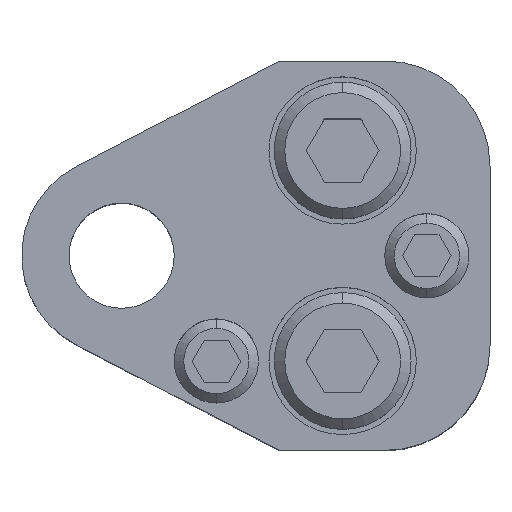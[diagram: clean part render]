
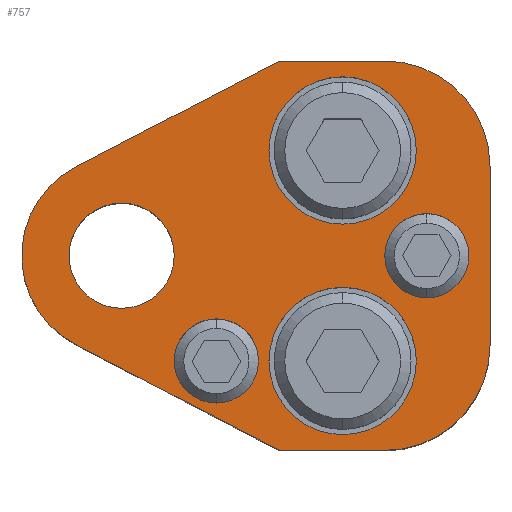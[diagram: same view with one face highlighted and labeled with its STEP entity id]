
A CAD part, top view. The second image highlights one B-rep face of the part: STEP entity #757.
In plain terms, the highlighted planar face has unit normal (0, 0, 1).
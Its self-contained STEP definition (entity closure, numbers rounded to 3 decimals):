
#428=LINE('',#3648,#598);
#433=LINE('',#3663,#603);
#437=LINE('',#3675,#607);
#442=LINE('',#3684,#612);
#447=LINE('',#3698,#617);
#598=VECTOR('',#2943,1.);
#603=VECTOR('',#2956,1.);
#607=VECTOR('',#2968,1.);
#612=VECTOR('',#2975,1.);
#617=VECTOR('',#2988,1.);
#757=ADVANCED_FACE('',(#863,#864,#865,#866,#867,#868),#834,.T.);
#834=PLANE('',#2455);
#863=FACE_BOUND('',#1003,.T.);
#864=FACE_BOUND('',#1004,.T.);
#865=FACE_BOUND('',#1005,.T.);
#866=FACE_BOUND('',#1006,.T.);
#867=FACE_BOUND('',#1007,.T.);
#868=FACE_BOUND('',#1008,.T.);
#1003=EDGE_LOOP('',(#1518,#1519,#1520,#1521,#1522,#1523,#1524,#1525));
#1004=EDGE_LOOP('',(#1526,#1527));
#1005=EDGE_LOOP('',(#1528,#1529));
#1006=EDGE_LOOP('',(#1530,#1531));
#1007=EDGE_LOOP('',(#1532,#1533));
#1008=EDGE_LOOP('',(#1534,#1535));
#1518=ORIENTED_EDGE('',*,*,#2038,.T.);
#1519=ORIENTED_EDGE('',*,*,#2020,.T.);
#1520=ORIENTED_EDGE('',*,*,#2024,.T.);
#1521=ORIENTED_EDGE('',*,*,#2027,.T.);
#1522=ORIENTED_EDGE('',*,*,#2030,.T.);
#1523=ORIENTED_EDGE('',*,*,#2033,.T.);
#1524=ORIENTED_EDGE('',*,*,#2045,.T.);
#1525=ORIENTED_EDGE('',*,*,#2041,.T.);
#1526=ORIENTED_EDGE('',*,*,#2080,.F.);
#1527=ORIENTED_EDGE('',*,*,#2081,.F.);
#1528=ORIENTED_EDGE('',*,*,#2082,.F.);
#1529=ORIENTED_EDGE('',*,*,#2083,.F.);
#1530=ORIENTED_EDGE('',*,*,#2070,.F.);
#1531=ORIENTED_EDGE('',*,*,#2066,.F.);
#1532=ORIENTED_EDGE('',*,*,#2064,.F.);
#1533=ORIENTED_EDGE('',*,*,#2060,.F.);
#1534=ORIENTED_EDGE('',*,*,#2084,.T.);
#1535=ORIENTED_EDGE('',*,*,#2085,.T.);
#1757=VERTEX_POINT('',#3647);
#1758=VERTEX_POINT('',#3649);
#1761=VERTEX_POINT('',#3656);
#1763=VERTEX_POINT('',#3662);
#1765=VERTEX_POINT('',#3668);
#1767=VERTEX_POINT('',#3674);
#1771=VERTEX_POINT('',#3685);
#1773=VERTEX_POINT('',#3691);
#1787=VERTEX_POINT('',#3733);
#1788=VERTEX_POINT('',#3734);
#1791=VERTEX_POINT('',#3745);
#1792=VERTEX_POINT('',#3746);
#1799=VERTEX_POINT('',#3773);
#1800=VERTEX_POINT('',#3774);
#1801=VERTEX_POINT('',#3777);
#1802=VERTEX_POINT('',#3778);
#1803=VERTEX_POINT('',#3781);
#1804=VERTEX_POINT('',#3782);
#2020=EDGE_CURVE('',#1758,#1757,#428,.T.);
#2024=EDGE_CURVE('',#1757,#1761,#2191,.T.);
#2027=EDGE_CURVE('',#1761,#1763,#433,.T.);
#2030=EDGE_CURVE('',#1763,#1765,#2193,.T.);
#2033=EDGE_CURVE('',#1765,#1767,#437,.T.);
#2038=EDGE_CURVE('',#1771,#1758,#442,.T.);
#2041=EDGE_CURVE('',#1773,#1771,#2196,.T.);
#2045=EDGE_CURVE('',#1767,#1773,#447,.T.);
#2060=EDGE_CURVE('',#1787,#1788,#2205,.T.);
#2064=EDGE_CURVE('',#1788,#1787,#2207,.T.);
#2066=EDGE_CURVE('',#1791,#1792,#2209,.T.);
#2070=EDGE_CURVE('',#1792,#1791,#2211,.T.);
#2080=EDGE_CURVE('',#1799,#1800,#2217,.T.);
#2081=EDGE_CURVE('',#1800,#1799,#2218,.T.);
#2082=EDGE_CURVE('',#1801,#1802,#2219,.T.);
#2083=EDGE_CURVE('',#1802,#1801,#2220,.T.);
#2084=EDGE_CURVE('',#1803,#1804,#2221,.T.);
#2085=EDGE_CURVE('',#1804,#1803,#2222,.T.);
#2191=CIRCLE('',#2406,10.);
#2193=CIRCLE('',#2410,10.);
#2196=CIRCLE('',#2416,9.5);
#2205=CIRCLE('',#2429,4.);
#2207=CIRCLE('',#2432,4.);
#2209=CIRCLE('',#2435,4.);
#2211=CIRCLE('',#2438,4.);
#2217=CIRCLE('',#2449,7.);
#2218=CIRCLE('',#2450,7.);
#2219=CIRCLE('',#2451,7.);
#2220=CIRCLE('',#2452,7.);
#2221=CIRCLE('',#2453,5.);
#2222=CIRCLE('',#2454,5.);
#2406=AXIS2_PLACEMENT_3D('',#3657,#2949,#2950);
#2410=AXIS2_PLACEMENT_3D('',#3669,#2961,#2962);
#2416=AXIS2_PLACEMENT_3D('',#3690,#2981,#2982);
#2429=AXIS2_PLACEMENT_3D('',#3732,#3016,#3017);
#2432=AXIS2_PLACEMENT_3D('',#3741,#3024,#3025);
#2435=AXIS2_PLACEMENT_3D('',#3744,#3030,#3031);
#2438=AXIS2_PLACEMENT_3D('',#3753,#3038,#3039);
#2449=AXIS2_PLACEMENT_3D('',#3772,#3064,#3065);
#2450=AXIS2_PLACEMENT_3D('',#3775,#3066,#3067);
#2451=AXIS2_PLACEMENT_3D('',#3776,#3068,#3069);
#2452=AXIS2_PLACEMENT_3D('',#3779,#3070,#3071);
#2453=AXIS2_PLACEMENT_3D('',#3780,#3072,#3073);
#2454=AXIS2_PLACEMENT_3D('',#3783,#3074,#3075);
#2455=AXIS2_PLACEMENT_3D('',#3784,#3076,#3077);
#2943=DIRECTION('',(1.,0.,0.));
#2949=DIRECTION('',(0.,0.,1.));
#2950=DIRECTION('',(-0.707,0.707,0.));
#2956=DIRECTION('',(0.,1.,0.));
#2961=DIRECTION('',(0.,0.,1.));
#2962=DIRECTION('',(-0.707,-0.707,0.));
#2968=DIRECTION('',(-1.,0.,0.));
#2975=DIRECTION('',(0.887,-0.461,0.));
#2981=DIRECTION('',(0.,0.,1.));
#2982=DIRECTION('',(1.,0.,0.));
#2988=DIRECTION('',(-0.887,-0.461,0.));
#3016=DIRECTION('',(0.,0.,1.));
#3017=DIRECTION('',(-1.,0.,0.));
#3024=DIRECTION('',(0.,0.,1.));
#3025=DIRECTION('',(1.,0.,0.));
#3030=DIRECTION('',(0.,0.,1.));
#3031=DIRECTION('',(-1.,0.,0.));
#3038=DIRECTION('',(0.,0.,1.));
#3039=DIRECTION('',(1.,0.,0.));
#3064=DIRECTION('',(0.,0.,1.));
#3065=DIRECTION('',(1.,0.,0.));
#3066=DIRECTION('',(0.,0.,1.));
#3067=DIRECTION('',(-1.,0.,0.));
#3068=DIRECTION('',(0.,0.,1.));
#3069=DIRECTION('',(1.,0.,0.));
#3070=DIRECTION('',(0.,0.,1.));
#3071=DIRECTION('',(-1.,0.,0.));
#3072=DIRECTION('',(0.,0.,-1.));
#3073=DIRECTION('',(-1.,0.,0.));
#3074=DIRECTION('',(0.,0.,-1.));
#3075=DIRECTION('',(1.,0.,0.));
#3076=DIRECTION('',(0.,0.,1.));
#3077=DIRECTION('',(0.887,-0.461,0.));
#3647=CARTESIAN_POINT('',(25.,-18.5,30.));
#3648=CARTESIAN_POINT('',(15.,-18.5,30.));
#3649=CARTESIAN_POINT('',(15.,-18.5,30.));
#3656=CARTESIAN_POINT('',(35.,-8.5,30.));
#3657=CARTESIAN_POINT('',(25.,-8.5,30.));
#3662=CARTESIAN_POINT('',(35.,8.5,30.));
#3663=CARTESIAN_POINT('',(35.,8.5,30.));
#3668=CARTESIAN_POINT('',(25.,18.5,30.));
#3669=CARTESIAN_POINT('',(25.,8.5,30.));
#3674=CARTESIAN_POINT('',(15.,18.5,30.));
#3675=CARTESIAN_POINT('',(15.,18.5,30.));
#3684=CARTESIAN_POINT('',(15.,-18.5,30.));
#3685=CARTESIAN_POINT('',(-4.38,-8.43,30.));
#3690=CARTESIAN_POINT('',(0.,0.,30.));
#3691=CARTESIAN_POINT('',(-4.38,8.43,30.));
#3698=CARTESIAN_POINT('',(15.,18.5,30.));
#3732=CARTESIAN_POINT('',(9.,-10.,30.));
#3733=CARTESIAN_POINT('',(9.,-14.,30.));
#3734=CARTESIAN_POINT('',(9.,-6.,30.));
#3741=CARTESIAN_POINT('',(9.,-10.,30.));
#3744=CARTESIAN_POINT('',(29.,0.,30.));
#3745=CARTESIAN_POINT('',(29.,-4.,30.));
#3746=CARTESIAN_POINT('',(29.,4.,30.));
#3753=CARTESIAN_POINT('',(29.,0.,30.));
#3772=CARTESIAN_POINT('',(21.,10.,30.));
#3773=CARTESIAN_POINT('',(21.,17.,30.));
#3774=CARTESIAN_POINT('',(21.,3.,30.));
#3775=CARTESIAN_POINT('',(21.,10.,30.));
#3776=CARTESIAN_POINT('',(21.,-10.,30.));
#3777=CARTESIAN_POINT('',(21.,-3.,30.));
#3778=CARTESIAN_POINT('',(21.,-17.,30.));
#3779=CARTESIAN_POINT('',(21.,-10.,30.));
#3780=CARTESIAN_POINT('',(0.,0.,30.));
#3781=CARTESIAN_POINT('',(0.,5.,30.));
#3782=CARTESIAN_POINT('',(0.,-5.,30.));
#3783=CARTESIAN_POINT('',(0.,0.,30.));
#3784=CARTESIAN_POINT('',(-4.38,-8.43,30.));
